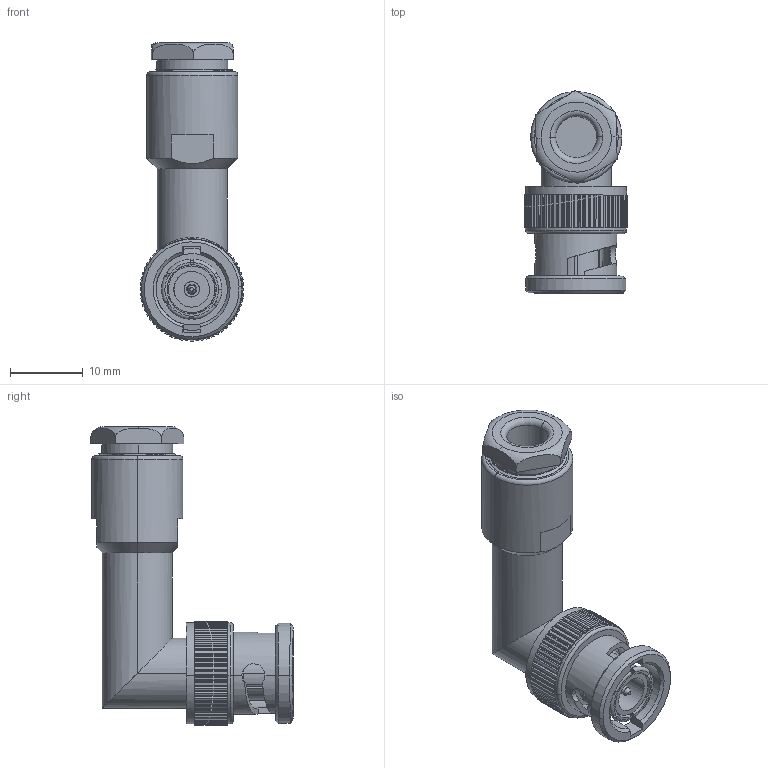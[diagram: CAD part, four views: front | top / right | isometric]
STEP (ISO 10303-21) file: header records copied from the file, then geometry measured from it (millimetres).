
FILE_DESCRIPTION (( 'STEP AP203' ), '1' );
FILE_NAME ('1004015A00E-000st.STEP', '2021-04-29T18:19:42', ( '' ), ( '' ), 'SwSTEP 2.0', 'SolidWorks 2019', '' );
FILE_SCHEMA (( 'CONFIG_CONTROL_DESIGN' ));
Length unit declared in the file: inch
Products named in the file (1): 1004015A00E-000st
Bounding box: 14.32 x 27.9 x 41.13 mm (x, y, z)
Volume: 4955.8 mm3; surface area: 3601.6 mm2
Topology: 1 solids, 2 shells, 551 faces, 1442 edges, 906 vertices
Faces by surface type: plane 315, cylinder 193, cone 25, torus 15, bspline 3
Entity records: 18123 total; most frequent: CARTESIAN_POINT 4250, DIRECTION 3071, ORIENTED_EDGE 2884, EDGE_CURVE 1442, AXIS2_PLACEMENT_3D 1199, VERTEX_POINT 906, LINE 673, VECTOR 673
